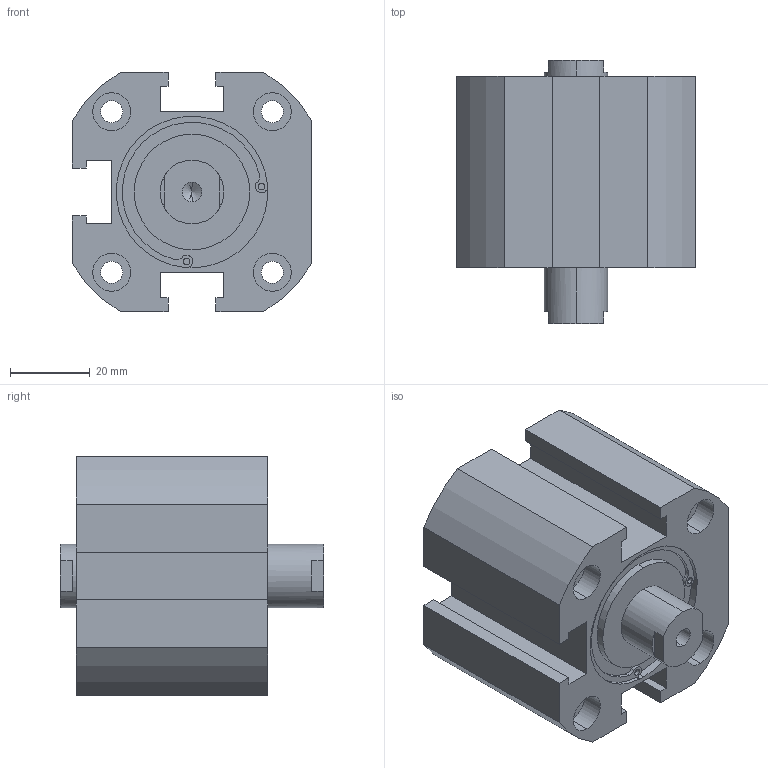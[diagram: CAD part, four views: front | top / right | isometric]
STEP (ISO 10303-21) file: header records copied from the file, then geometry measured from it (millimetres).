
FILE_DESCRIPTION (( 'STEP AP203' ), '1' );
FILE_NAME ('XG#7-40D-10.STEP', '2016-05-24T01:59:23', ( '' ), ( '' ), 'SwSTEP 2.0', 'SolidWorks 2014', '' );
FILE_SCHEMA (( 'CONFIG_CONTROL_DESIGN' ));
Length unit declared in the file: millimetre
Products named in the file (1): XG#7-40D-10
Bounding box: 60 x 66 x 60 mm (x, y, z)
Volume: 133888.9 mm3; surface area: 26525.2 mm2
Topology: 1 solids, 1 shells, 149 faces, 369 edges, 238 vertices
Faces by surface type: cylinder 77, plane 60, cone 12
Entity records: 4514 total; most frequent: DIRECTION 831, CARTESIAN_POINT 749, ORIENTED_EDGE 722, EDGE_CURVE 361, AXIS2_PLACEMENT_3D 320, VERTEX_POINT 238, LINE 191, VECTOR 191
